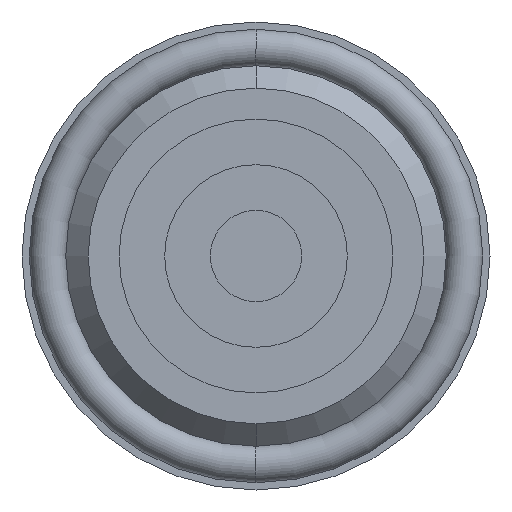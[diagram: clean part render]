
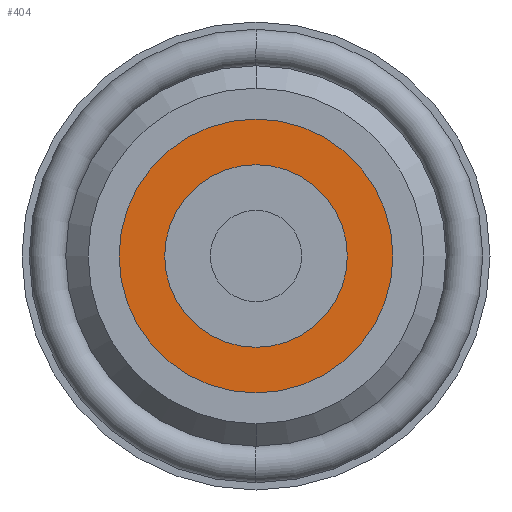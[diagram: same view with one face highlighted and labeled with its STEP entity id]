
A CAD part, front view. The second image highlights one B-rep face of the part: STEP entity #404.
In plain terms, the highlighted planar face has unit normal (0, -1, 0).
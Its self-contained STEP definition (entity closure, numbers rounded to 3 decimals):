
#293 = VERTEX_POINT ( 'NONE', #4024 ) ;
#296 = VERTEX_POINT ( 'NONE', #4026 ) ;
#299 = EDGE_CURVE ( 'NONE', #296, #293, #4045, .T. ) ;
#371 = ORIENTED_EDGE ( 'NONE', *, *, #405, .F. ) ;
#394 = EDGE_LOOP ( 'NONE', ( #402, #411 ) ) ;
#402 = ORIENTED_EDGE ( 'NONE', *, *, #416, .T. ) ;
#403 = EDGE_LOOP ( 'NONE', ( #437, #371 ) ) ;
#404 = ADVANCED_FACE ( 'NONE', ( #4174, #4219 ), #4263, .T. ) ;
#405 = EDGE_CURVE ( 'NONE', #293, #296, #4266, .T. ) ;
#411 = ORIENTED_EDGE ( 'NONE', *, *, #774, .T. ) ;
#416 = EDGE_CURVE ( 'NONE', #779, #776, #4249, .T. ) ;
#437 = ORIENTED_EDGE ( 'NONE', *, *, #299, .F. ) ;
#556 = DIRECTION ( 'NONE',  ( 0., 0., -1. ) ) ;
#774 = EDGE_CURVE ( 'NONE', #776, #779, #1004, .T. ) ;
#776 = VERTEX_POINT ( 'NONE', #1375 ) ;
#779 = VERTEX_POINT ( 'NONE', #1373 ) ;
#1004 = CIRCLE ( 'NONE', #1005, 6. ) ;
#1005 = AXIS2_PLACEMENT_3D ( 'NONE', #1007, #1006, #556 ) ;
#1006 = DIRECTION ( 'NONE',  ( 0., -1., 0. ) ) ;
#1007 = CARTESIAN_POINT ( 'NONE',  ( 0., -8., 0. ) ) ;
#1373 = CARTESIAN_POINT ( 'NONE',  ( 0., -8., -6. ) ) ;
#1375 = CARTESIAN_POINT ( 'NONE',  ( 0., -8., 6. ) ) ;
#4024 = CARTESIAN_POINT ( 'NONE',  ( 0., -8., 4. ) ) ;
#4026 = CARTESIAN_POINT ( 'NONE',  ( 0., -8., -4. ) ) ;
#4045 = CIRCLE ( 'NONE', #4080, 4. ) ;
#4078 = DIRECTION ( 'NONE',  ( 0., 0., -1. ) ) ;
#4079 = DIRECTION ( 'NONE',  ( 0., -1., 0. ) ) ;
#4080 = AXIS2_PLACEMENT_3D ( 'NONE', #4086, #4079, #4078 ) ;
#4086 = CARTESIAN_POINT ( 'NONE',  ( 0., -8., 0. ) ) ;
#4174 = FACE_OUTER_BOUND ( 'NONE', #394, .T. ) ;
#4219 = FACE_BOUND ( 'NONE', #403, .T. ) ;
#4220 = AXIS2_PLACEMENT_3D ( 'NONE', #4262, #4261, #4255 ) ;
#4238 = CARTESIAN_POINT ( 'NONE',  ( 0., -8., 0. ) ) ;
#4243 = DIRECTION ( 'NONE',  ( 0., -1., 0. ) ) ;
#4249 = CIRCLE ( 'NONE', #4253, 6. ) ;
#4250 = DIRECTION ( 'NONE',  ( 0., 0., -1. ) ) ;
#4251 = DIRECTION ( 'NONE',  ( 0., -1., 0. ) ) ;
#4252 = CARTESIAN_POINT ( 'NONE',  ( 0., -8., 0. ) ) ;
#4253 = AXIS2_PLACEMENT_3D ( 'NONE', #4238, #4243, #4299 ) ;
#4255 = DIRECTION ( 'NONE',  ( 0., 0., -1. ) ) ;
#4256 = AXIS2_PLACEMENT_3D ( 'NONE', #4252, #4251, #4250 ) ;
#4261 = DIRECTION ( 'NONE',  ( 0., -1., 0. ) ) ;
#4262 = CARTESIAN_POINT ( 'NONE',  ( 6., -8., 0. ) ) ;
#4263 = PLANE ( 'NONE',  #4220 ) ;
#4266 = CIRCLE ( 'NONE', #4256, 4. ) ;
#4299 = DIRECTION ( 'NONE',  ( 0., 0., -1. ) ) ;
